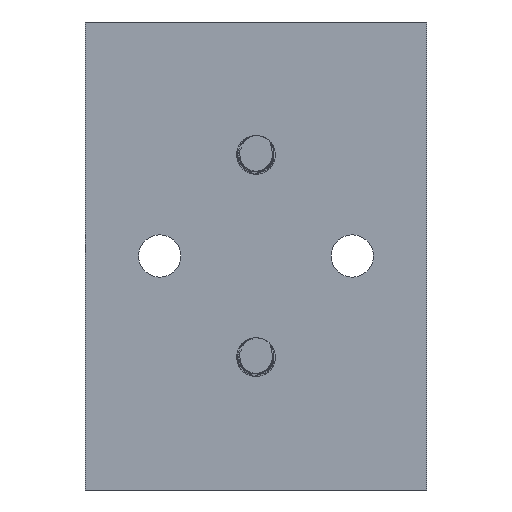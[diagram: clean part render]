
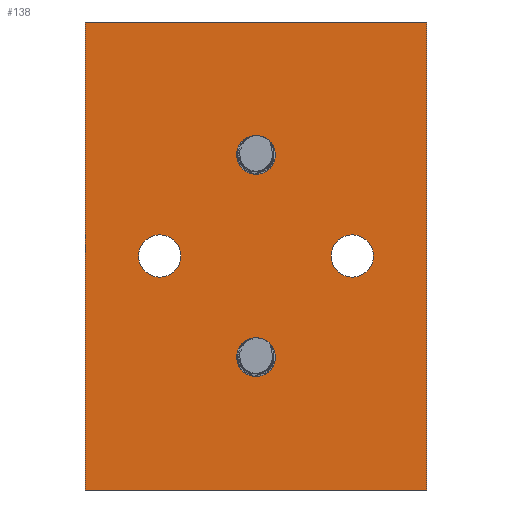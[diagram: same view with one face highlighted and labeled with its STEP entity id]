
A CAD part, left-side view. The second image highlights one B-rep face of the part: STEP entity #138.
In plain terms, the highlighted planar face has unit normal (-1, 0, 0).
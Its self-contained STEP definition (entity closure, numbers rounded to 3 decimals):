
#138=ADVANCED_FACE('',(#202,#203,#204,#205,#292),#181,.F.);
#181=PLANE('',#887);
#202=FACE_BOUND('',#333,.T.);
#203=FACE_BOUND('',#334,.T.);
#204=FACE_BOUND('',#335,.T.);
#205=FACE_BOUND('',#336,.T.);
#258=CIRCLE('',#883,3.493);
#259=CIRCLE('',#884,3.493);
#260=CIRCLE('',#885,4.391);
#261=CIRCLE('',#886,4.391);
#292=FACE_OUTER_BOUND('',#337,.T.);
#333=EDGE_LOOP('',(#459));
#334=EDGE_LOOP('',(#460));
#335=EDGE_LOOP('',(#461));
#336=EDGE_LOOP('',(#462));
#337=EDGE_LOOP('',(#463,#464,#465,#466));
#459=ORIENTED_EDGE('',*,*,#695,.F.);
#460=ORIENTED_EDGE('',*,*,#696,.T.);
#461=ORIENTED_EDGE('',*,*,#697,.F.);
#462=ORIENTED_EDGE('',*,*,#698,.T.);
#463=ORIENTED_EDGE('',*,*,#699,.T.);
#464=ORIENTED_EDGE('',*,*,#700,.F.);
#465=ORIENTED_EDGE('',*,*,#701,.F.);
#466=ORIENTED_EDGE('',*,*,#702,.T.);
#611=VERTEX_POINT('',#6768);
#612=VERTEX_POINT('',#6770);
#613=VERTEX_POINT('',#6772);
#614=VERTEX_POINT('',#6774);
#615=VERTEX_POINT('',#6776);
#616=VERTEX_POINT('',#6777);
#617=VERTEX_POINT('',#6779);
#618=VERTEX_POINT('',#6781);
#695=EDGE_CURVE('',#611,#611,#258,.T.);
#696=EDGE_CURVE('',#612,#612,#259,.T.);
#697=EDGE_CURVE('',#613,#613,#260,.T.);
#698=EDGE_CURVE('',#614,#614,#261,.T.);
#699=EDGE_CURVE('',#615,#616,#780,.T.);
#700=EDGE_CURVE('',#617,#616,#781,.T.);
#701=EDGE_CURVE('',#618,#617,#782,.T.);
#702=EDGE_CURVE('',#618,#615,#783,.T.);
#780=LINE('',#6775,#834);
#781=LINE('',#6778,#835);
#782=LINE('',#6780,#836);
#783=LINE('',#6782,#837);
#834=VECTOR('',#993,1.);
#835=VECTOR('',#994,1.);
#836=VECTOR('',#995,1.);
#837=VECTOR('',#996,1.);
#883=AXIS2_PLACEMENT_3D('',#6767,#985,#986);
#884=AXIS2_PLACEMENT_3D('',#6769,#987,#988);
#885=AXIS2_PLACEMENT_3D('',#6771,#989,#990);
#886=AXIS2_PLACEMENT_3D('',#6773,#991,#992);
#887=AXIS2_PLACEMENT_3D('',#6783,#997,#998);
#985=DIRECTION('',(-1.,0.,0.));
#986=DIRECTION('',(0.,0.,1.));
#987=DIRECTION('',(1.,0.,0.));
#988=DIRECTION('',(0.,0.,-1.));
#989=DIRECTION('',(-1.,0.,0.));
#990=DIRECTION('',(0.,0.,-1.));
#991=DIRECTION('',(1.,0.,0.));
#992=DIRECTION('',(0.,0.,-1.));
#993=DIRECTION('',(0.,-1.,0.));
#994=DIRECTION('',(0.,0.,-1.));
#995=DIRECTION('',(0.,-1.,0.));
#996=DIRECTION('',(0.,0.,-1.));
#997=DIRECTION('',(1.,0.,0.));
#998=DIRECTION('',(0.,0.,-1.));
#6767=CARTESIAN_POINT('',(3.674,-13.494,107.5));
#6768=CARTESIAN_POINT('',(3.674,-13.494,110.993));
#6769=CARTESIAN_POINT('',(3.674,-13.494,149.5));
#6770=CARTESIAN_POINT('',(3.674,-13.494,146.007));
#6771=CARTESIAN_POINT('',(3.674,-33.494,128.5));
#6772=CARTESIAN_POINT('',(3.674,-33.494,124.109));
#6773=CARTESIAN_POINT('',(3.674,6.506,128.5));
#6774=CARTESIAN_POINT('',(3.674,6.506,124.109));
#6775=CARTESIAN_POINT('',(3.674,36.506,79.879));
#6776=CARTESIAN_POINT('',(3.674,22.006,79.879));
#6777=CARTESIAN_POINT('',(3.674,-48.994,79.879));
#6778=CARTESIAN_POINT('',(3.674,-48.994,87.429));
#6779=CARTESIAN_POINT('',(3.674,-48.994,177.121));
#6780=CARTESIAN_POINT('',(3.674,36.506,177.121));
#6781=CARTESIAN_POINT('',(3.674,22.006,177.121));
#6782=CARTESIAN_POINT('',(3.674,22.006,87.429));
#6783=CARTESIAN_POINT('',(3.674,-66.998,87.429));
